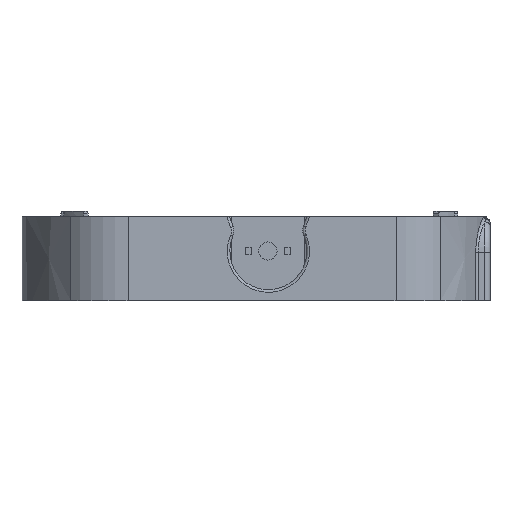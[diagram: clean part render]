
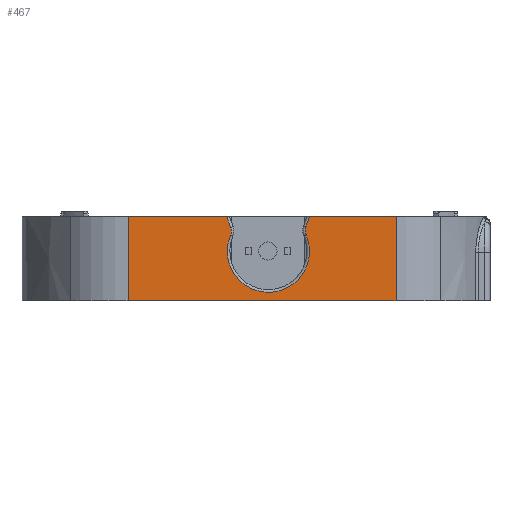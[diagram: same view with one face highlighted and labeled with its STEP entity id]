
A CAD part, left-side view. The second image highlights one B-rep face of the part: STEP entity #467.
In plain terms, the highlighted planar face has unit normal (-1, 0, 0).
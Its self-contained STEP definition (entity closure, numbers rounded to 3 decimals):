
#247=FACE_OUTER_BOUND('',#1141,.T.);
#467=ADVANCED_FACE('',(#247),#676,.T.);
#676=PLANE('',#4354);
#920=CIRCLE('',#4351,4.);
#921=CIRCLE('',#4352,15.8);
#922=CIRCLE('',#4353,4.);
#1141=EDGE_LOOP('',(#1763,#1764,#1765,#1766,#1767,#1768,#1769,#1770,#1771,
#1772));
#1763=ORIENTED_EDGE('',*,*,#3086,.T.);
#1764=ORIENTED_EDGE('',*,*,#3242,.T.);
#1765=ORIENTED_EDGE('',*,*,#3243,.T.);
#1766=ORIENTED_EDGE('',*,*,#3244,.T.);
#1767=ORIENTED_EDGE('',*,*,#3245,.T.);
#1768=ORIENTED_EDGE('',*,*,#3246,.T.);
#1769=ORIENTED_EDGE('',*,*,#3075,.T.);
#1770=ORIENTED_EDGE('',*,*,#3240,.T.);
#1771=ORIENTED_EDGE('',*,*,#2961,.T.);
#1772=ORIENTED_EDGE('',*,*,#3231,.T.);
#2566=VERTEX_POINT('',#5769);
#2567=VERTEX_POINT('',#5771);
#2680=VERTEX_POINT('',#6067);
#2681=VERTEX_POINT('',#6069);
#2691=VERTEX_POINT('',#6089);
#2692=VERTEX_POINT('',#6091);
#2798=VERTEX_POINT('',#6517);
#2799=VERTEX_POINT('',#6519);
#2800=VERTEX_POINT('',#6521);
#2801=VERTEX_POINT('',#6523);
#2961=EDGE_CURVE('',#2567,#2566,#3522,.T.);
#3075=EDGE_CURVE('',#2681,#2680,#3582,.T.);
#3086=EDGE_CURVE('',#2692,#2691,#3589,.T.);
#3231=EDGE_CURVE('',#2566,#2692,#3679,.T.);
#3240=EDGE_CURVE('',#2680,#2567,#3686,.T.);
#3242=EDGE_CURVE('',#2691,#2798,#3688,.T.);
#3243=EDGE_CURVE('',#2798,#2799,#920,.T.);
#3244=EDGE_CURVE('',#2799,#2800,#921,.T.);
#3245=EDGE_CURVE('',#2800,#2801,#922,.T.);
#3246=EDGE_CURVE('',#2801,#2681,#3689,.T.);
#3522=LINE('',#5770,#3879);
#3582=LINE('',#6068,#3939);
#3589=LINE('',#6090,#3946);
#3679=LINE('',#6460,#4036);
#3686=LINE('',#6506,#4046);
#3688=LINE('',#6516,#4049);
#3689=LINE('',#6524,#4050);
#3879=VECTOR('',#4634,1.);
#3939=VECTOR('',#4776,1.);
#3946=VECTOR('',#4791,1.);
#4036=VECTOR('',#5023,1.);
#4046=VECTOR('',#5041,1.);
#4049=VECTOR('',#5046,1.);
#4050=VECTOR('',#5053,1.);
#4351=AXIS2_PLACEMENT_3D('',#6518,#5047,#5048);
#4352=AXIS2_PLACEMENT_3D('',#6520,#5049,#5050);
#4353=AXIS2_PLACEMENT_3D('',#6522,#5051,#5052);
#4354=AXIS2_PLACEMENT_3D('',#6525,#5054,#5055);
#4634=DIRECTION('',(0.,-1.,0.));
#4776=DIRECTION('',(0.,1.,0.));
#4791=DIRECTION('',(0.,1.,0.));
#5023=DIRECTION('',(0.,0.,1.));
#5041=DIRECTION('',(0.,0.,-1.));
#5046=DIRECTION('',(0.,0.342,-0.94));
#5047=DIRECTION('',(-1.,0.,0.));
#5048=DIRECTION('',(0.,-1.,0.));
#5049=DIRECTION('',(1.,0.,0.));
#5050=DIRECTION('',(0.,-1.,0.));
#5051=DIRECTION('',(-1.,0.,0.));
#5052=DIRECTION('',(0.,-1.,0.));
#5053=DIRECTION('',(0.,0.342,0.94));
#5054=DIRECTION('',(-1.,0.,0.));
#5055=DIRECTION('',(0.,-1.,0.));
#5769=CARTESIAN_POINT('',(-3.912,17.781,1.738));
#5770=CARTESIAN_POINT('',(-3.912,131.968,1.738));
#5771=CARTESIAN_POINT('',(-3.912,120.756,1.738));
#6067=CARTESIAN_POINT('',(-3.912,120.756,34.038));
#6068=CARTESIAN_POINT('',(-3.912,131.968,34.038));
#6069=CARTESIAN_POINT('',(-3.912,82.86,34.038));
#6089=CARTESIAN_POINT('',(-3.912,50.977,34.038));
#6090=CARTESIAN_POINT('',(-3.912,131.968,34.038));
#6091=CARTESIAN_POINT('',(-3.912,17.781,34.038));
#6460=CARTESIAN_POINT('',(-3.912,17.781,1.738));
#6506=CARTESIAN_POINT('',(-3.912,120.756,1.738));
#6516=CARTESIAN_POINT('',(-3.912,70.832,-20.514));
#6517=CARTESIAN_POINT('',(-3.912,52.448,29.996));
#6518=CARTESIAN_POINT('',(-3.912,48.689,28.628));
#6519=CARTESIAN_POINT('',(-3.912,52.358,27.034));
#6520=CARTESIAN_POINT('',(-3.912,66.849,20.738));
#6521=CARTESIAN_POINT('',(-3.912,81.4,26.895));
#6522=CARTESIAN_POINT('',(-3.912,85.084,28.454));
#6523=CARTESIAN_POINT('',(-3.912,81.325,29.822));
#6524=CARTESIAN_POINT('',(-3.912,78.223,21.299));
#6525=CARTESIAN_POINT('',(-3.912,131.968,1.738));
